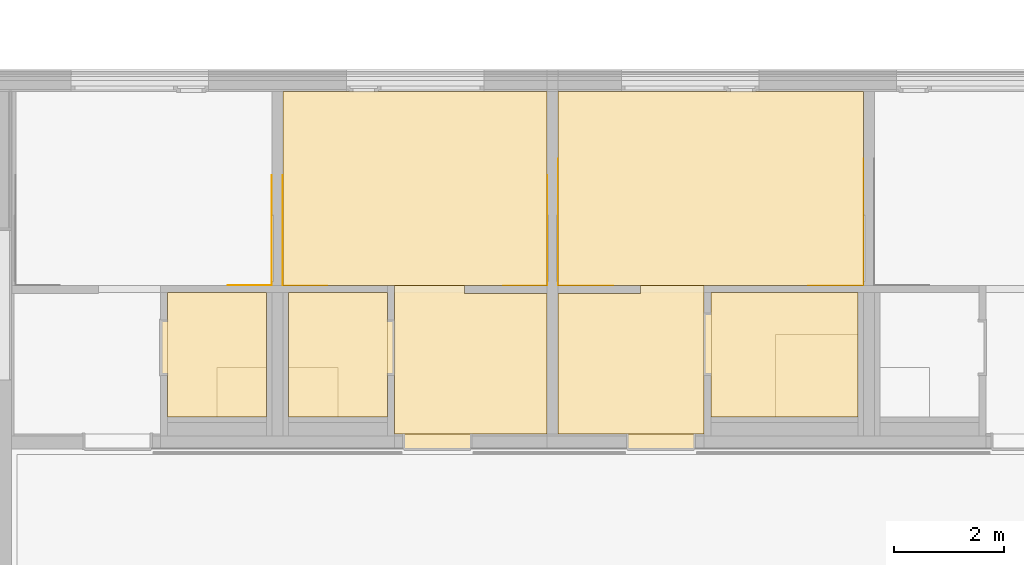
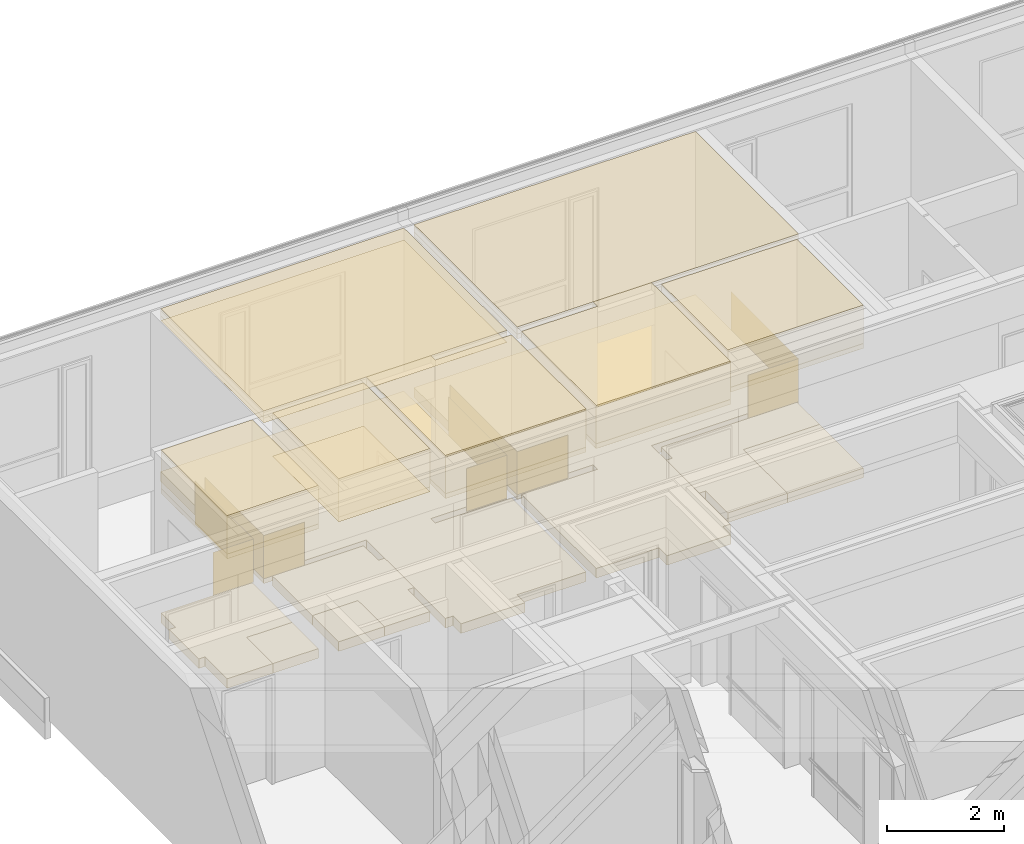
# One storey, part 173 of 207: 41 coverings.
"""IFC4 building model written with IfcOpenShell, lengths in metres."""

import ifcopenshell
import ifcopenshell.guid

model = None  # the IFC model being written
_history = None  # IfcOwnerHistory: only IFC2X3 demands one
_inside = {}  # id of a spatial element -> (the spatial element, [elements in it])
_under = {}  # id of a project, library or spatial element -> (it, [spatial elements below it])
_declared = {}  # id of a project -> (the project, [libraries it declares])
_typed = {}  # id of a type object -> (the type object, [elements of that type])
_made_of = {}  # id of a material, layer set ... -> (it, [elements and type objects made of it])


def new_model(schema):
    """Start an empty IFC model of exactly this schema.

    Asked for "IFC4X3", IfcOpenShell would pick the latest addendum, in which some entities
    have other attributes; the version numbers below select the first issue.
    IFC2X3 requires an IfcOwnerHistory on every rooted entity: one is made here for all.
    """
    global model, _history
    if schema == "IFC4X3":
        model = ifcopenshell.file(schema_version=(4, 3, 0, 0))
    else:
        model = ifcopenshell.file(schema=schema)
    _inside.clear()
    _under.clear()
    _declared.clear()
    _typed.clear()
    _made_of.clear()
    _history = None
    if model.schema == "IFC2X3":
        org = make("IfcOrganization", Name="unknown")
        user = make(
            "IfcPersonAndOrganization",
            ThePerson=make("IfcPerson", FamilyName="unknown"),
            TheOrganization=org,
        )
        app = make(
            "IfcApplication",
            ApplicationDeveloper=org,
            Version="unknown",
            ApplicationFullName="unknown",
            ApplicationIdentifier="unknown",
        )
        _history = make(
            "IfcOwnerHistory",
            OwningUser=user,
            OwningApplication=app,
            ChangeAction="ADDED",
            CreationDate=0,
        )
    return model


def make(cls, **values):
    """One entity of the class cls with the attributes given. An attribute that is None is left unset."""
    return model.create_entity(
        cls, **{name: value for name, value in values.items() if value is not None}
    )


def entity(cls, *values):
    """Any entity or typed value of the class cls, its attributes in the order of the schema. None: left unset."""
    e = model.create_entity(cls)
    for i, value in enumerate(values):
        if value is not None:
            e[i] = value
    return e


def rooted(cls, **values):
    """An entity with a GlobalId (a new one), such as an element, a storey or a relation."""
    return make(cls, GlobalId=ifcopenshell.guid.new(), OwnerHistory=_history, **values)


def si_unit(unit_type, name, prefix=None):
    """IfcSIUnit, for example si_unit("LENGTHUNIT", "METRE", prefix="MILLI")."""
    return make("IfcSIUnit", UnitType=unit_type, Prefix=prefix, Name=name)


def converted_unit(unit_type, name, factor, base, dimensions=None, offset=None):
    """IfcConversionBasedUnit, such as the inch: factor (a typed value) times the base unit."""
    return make(
        "IfcConversionBasedUnit"
        if offset is None
        else "IfcConversionBasedUnitWithOffset",
        ConversionOffset=offset,
        Dimensions=None
        if dimensions is None
        else entity("IfcDimensionalExponents", *dimensions),
        UnitType=unit_type,
        Name=name,
        ConversionFactor=make(
            "IfcMeasureWithUnit", ValueComponent=factor, UnitComponent=base
        ),
    )


def derived_unit(unit_type, elements):
    """IfcDerivedUnit: a product of units, each with its exponent."""
    return make(
        "IfcDerivedUnit",
        Elements=[
            make("IfcDerivedUnitElement", Unit=unit, Exponent=power)
            for unit, power in elements
        ],
        UnitType=unit_type,
    )


def assignment(units):
    """IfcUnitAssignment: the units of a project."""
    return None if units is None else make("IfcUnitAssignment", Units=units)


def point(xyz):
    """IfcCartesianPoint."""
    return None if xyz is None else make("IfcCartesianPoint", Coordinates=xyz)


def direction(xyz):
    """IfcDirection."""
    return None if xyz is None else make("IfcDirection", DirectionRatios=xyz)


def frame(location, z_axis=None, x_axis=None):
    """IfcAxis2Placement3D, a coordinate frame: its origin and axes. An axis left out is left unset."""
    return make(
        "IfcAxis2Placement3D",
        Location=point(location),
        Axis=direction(z_axis),
        RefDirection=direction(x_axis),
    )


def frame_2d(location, x_axis=None):
    """IfcAxis2Placement2D, a coordinate frame in the plane: its origin and x axis."""
    return make(
        "IfcAxis2Placement2D", Location=point(location), RefDirection=direction(x_axis)
    )


def origin():
    """The frame at (0, 0, 0) with its axes left unset."""
    return frame((0.0, 0.0, 0.0))


def origin_with_axes():
    """The frame at (0, 0, 0) with the z axis (0, 0, 1) and the x axis (1, 0, 0) written out."""
    return frame((0.0, 0.0, 0.0), z_axis=(0.0, 0.0, 1.0), x_axis=(1.0, 0.0, 0.0))


def place(relative_to, where):
    """IfcLocalPlacement: puts the frame where relative to a parent placement (None: the world)."""
    return make(
        "IfcLocalPlacement", PlacementRelTo=relative_to, RelativePlacement=where
    )


def context(
    kind, dimensions, precision=None, world=None, true_north=None, identifier=None
):
    """IfcGeometricRepresentationContext, for example the 3D "Model" context."""
    return make(
        "IfcGeometricRepresentationContext",
        ContextIdentifier=identifier,
        ContextType=kind,
        CoordinateSpaceDimension=dimensions,
        Precision=precision,
        WorldCoordinateSystem=world,
        TrueNorth=true_north,
    )


def subcontext(parent, identifier, kind, view, scale=None):
    """IfcGeometricRepresentationSubContext, for example "Body" below "Model"."""
    return make(
        "IfcGeometricRepresentationSubContext",
        ContextIdentifier=identifier,
        ContextType=kind,
        ParentContext=parent,
        TargetScale=scale,
        TargetView=view,
    )


def project(units=None, contexts=None):
    """IfcProject with its units and contexts."""
    return rooted(
        "IfcProject",
        Name="project",
        RepresentationContexts=contexts,
        UnitsInContext=assignment(units),
    )


def spatial(cls, under=None, at=None, **own):
    """A site, building, storey or space (cls), placed at a placement, below another one or the project."""
    s = rooted(cls, ObjectPlacement=at, **own)
    if under is not None:
        _under.setdefault(under.id(), (under, []))[1].append(s)
    return s


def polyline(points):
    """IfcPolyline through the points."""
    return make("IfcPolyline", Points=[point(p) for p in points])


def profile(cls, at=None, kind="AREA", **sizes):
    """A parametric profile (cls). Its sizes go by their IFC names, for example OverallWidth=200.0."""
    return make(cls, ProfileType=kind, Position=at, **sizes)


def rectangle(**sizes):
    """IfcRectangleProfileDef."""
    return profile("IfcRectangleProfileDef", **sizes)


def outline(outer, holes=None, kind="AREA"):
    """IfcArbitraryClosedProfileDef: a profile drawn as a closed curve; with holes, ...WithVoids."""
    if holes is None:
        return make("IfcArbitraryClosedProfileDef", ProfileType=kind, OuterCurve=outer)
    return make(
        "IfcArbitraryProfileDefWithVoids",
        ProfileType=kind,
        OuterCurve=outer,
        InnerCurves=holes,
    )


def extrude(swept, where, along, depth):
    """IfcExtrudedAreaSolid: the profile swept, set in the frame where, extruded along a direction by depth."""
    return make(
        "IfcExtrudedAreaSolid",
        SweptArea=swept,
        Position=where,
        ExtrudedDirection=direction(along),
        Depth=depth,
    )


def shape(context_of_items, identifier, shape_type, items):
    """IfcShapeRepresentation: the items that make up one representation, for example the "Body"."""
    return make(
        "IfcShapeRepresentation",
        ContextOfItems=context_of_items,
        RepresentationIdentifier=identifier,
        RepresentationType=shape_type,
        Items=items,
    )


def material(Name=None, Category=None):
    """IfcMaterial."""
    return make("IfcMaterial", Name=Name, Category=Category)


def layer(
    of_material, thickness, ventilated=None, Name=None, Category=None, Priority=None
):
    """IfcMaterialLayer: one layer of a wall or slab, of a material (None: an air gap)."""
    return make(
        "IfcMaterialLayer",
        Material=of_material,
        LayerThickness=thickness,
        IsVentilated=ventilated,
        Name=Name,
        Category=Category,
        Priority=Priority,
    )


def layer_set(layers, Name=None):
    """IfcMaterialLayerSet."""
    return make("IfcMaterialLayerSet", MaterialLayers=layers, LayerSetName=Name)


def layer_usage(for_layer_set, set_direction, sense, offset, extent=None):
    """IfcMaterialLayerSetUsage: how a layer set lies in its element."""
    return make(
        "IfcMaterialLayerSetUsage",
        ForLayerSet=for_layer_set,
        LayerSetDirection=set_direction,
        DirectionSense=sense,
        OffsetFromReferenceLine=offset,
        ReferenceExtent=extent,
    )


def made_of(thing, what):
    """Note that an element or type object is made of a material, layer set ...; save() writes the relation."""
    if what is not None:
        _made_of.setdefault(what.id(), (what, []))[1].append(thing)
    return thing


def element(
    cls,
    number,
    at=None,
    inside=None,
    cuts=None,
    type_object=None,
    material=None,
    context=None,
    identifier="Body",
    shape_type=None,
    held_by="IfcProductDefinitionShape",
    body=None,
    shapes=None,
    **own,
):
    """One element of the class cls, such as IfcWall. Its Tag is "e" and its number.

    at: its placement. inside: the storey or other place that contains it. cuts: it is an
    opening in that element (IfcRelVoidsElement). A single representation is given by context,
    identifier, shape_type and body (its items); several are given by shapes. held_by: the class
    of the entity that holds the representations. save() writes the other relations.
    """
    e = rooted(cls, Tag="e%d" % number, ObjectPlacement=at, **own)
    if body is not None:
        shapes = [shape(context, identifier, shape_type, body)]
    if shapes is not None:
        e.Representation = make(held_by, Representations=shapes)
    if inside is not None:
        _inside.setdefault(inside.id(), (inside, []))[1].append(e)
    if cuts is not None:
        rooted(
            "IfcRelVoidsElement", RelatingBuildingElement=cuts, RelatedOpeningElement=e
        )
    if type_object is not None:
        _typed.setdefault(type_object.id(), (type_object, []))[1].append(e)
    return made_of(e, material)


def aggregate(whole, parts):
    """IfcRelAggregates: a whole, such as a stair, and the parts it consists of."""
    return rooted("IfcRelAggregates", RelatingObject=whole, RelatedObjects=parts)


def save(model, path):
    """Write the relations noted so far, then the file.

    IfcRelAggregates (storeys below a building ...), IfcRelContainedInSpatialStructure (elements
    in a storey), IfcRelDefinesByType, IfcRelAssociatesMaterial and IfcRelDeclares: one each for
    every whole, place, type object, material and project.
    """
    for whole, parts in _under.values():
        aggregate(whole, parts)
    for where, things in _inside.values():
        rooted(
            "IfcRelContainedInSpatialStructure",
            RelatedElements=things,
            RelatingStructure=where,
        )
    for kind, things in _typed.values():
        rooted("IfcRelDefinesByType", RelatedObjects=things, RelatingType=kind)
    for what, things in _made_of.values():
        rooted("IfcRelAssociatesMaterial", RelatedObjects=things, RelatingMaterial=what)
    for by, libraries in _declared.values():
        rooted("IfcRelDeclares", RelatingContext=by, RelatedDefinitions=libraries)
    model.write(path)


model = new_model("IFC4")

# Units and contexts
model_context = context("Model", 3, precision=1e-05, world=origin())
body_context = subcontext(model_context, "Body", "Model", "MODEL_VIEW")
ifc_project = project(units=[si_unit("LENGTHUNIT", "METRE"), si_unit("AREAUNIT", "SQUARE_METRE"), si_unit("VOLUMEUNIT", "CUBIC_METRE"), si_unit("MASSUNIT", "GRAM", prefix="KILO"), converted_unit("PLANEANGLEUNIT", "DEGREE", entity("IfcPlaneAngleMeasure", 0.0174532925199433), si_unit("PLANEANGLEUNIT", "RADIAN"), dimensions=[0, 0, 0, 0, 0, 0, 0]), derived_unit("THERMALTRANSMITTANCEUNIT", [(si_unit("POWERUNIT", "WATT"), 1), (si_unit("THERMODYNAMICTEMPERATUREUNIT", "KELVIN"), -1), (si_unit("LENGTHUNIT", "METRE"), -2)]), derived_unit("VOLUMETRICFLOWRATEUNIT", [(si_unit("LENGTHUNIT", "METRE"), 3), (converted_unit("TIMEUNIT", "hour", entity("IfcTimeMeasure", 3600.0), si_unit("TIMEUNIT", "SECOND"), dimensions=[0, 0, 1, 0, 0, 0, 0]), -1), (si_unit("LENGTHUNIT", "METRE"), -1)])], contexts=[model_context])

# Site, building, storey, space
site_placement = place(None, origin())
site = spatial("IfcSite", under=ifc_project, at=site_placement, Name="Psychiatrie Neubau Wunstorf", CompositionType="ELEMENT")
building_placement = place(site_placement, origin())
building = spatial("IfcBuilding", under=site, at=building_placement, Name="Neubau H2 Stationsgebäude", CompositionType="ELEMENT")
storey_placement = place(building_placement, frame((0.0, 0.0, -0.2)))
storey = spatial("IfcBuildingStorey", under=building, at=storey_placement, Name="H2 Ebene 0", CompositionType="ELEMENT", Elevation=-0.2)
space_1_placement = place(storey_placement, frame((12.875, 24.6995, 0.0)))
space_1 = spatial("IfcSpace", under=storey, at=space_1_placement, Name="WUN-H2-E00-043a", CompositionType="ELEMENT")

# Coverings
ifc_material_1 = material(Name="Fl1")
ifc_layer_1 = layer(ifc_material_1, 0.2)
ifc_layer_set_1 = layer_set([ifc_layer_1])
ifc_layer_usage_1 = layer_usage(ifc_layer_set_1, "AXIS3", "POSITIVE", 0.0)
covering_1_placement = place(space_1_placement, frame((-0.125, 0.0, 0.0)))
element("IfcCovering", 1, at=covering_1_placement, inside=space_1, material=ifc_layer_usage_1, Name="Fliesen", PredefinedType="FLOORING", context=body_context, shape_type="SweptSolid", body=[
    extrude(rectangle(XDim=0.125, YDim=1.135, at=frame_2d((0.0625, 0.5675), x_axis=(1.0, 0.0))), frame((0.0, 0.755000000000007, 0.0), z_axis=(0.0, 0.0, 1.0), x_axis=(1.0, 0.0, 0.0)), (0.0, 0.0, 1.0), 0.2),
    extrude(outline(polyline([(1.17500000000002, 1.50000000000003), (2.675, 1.50000000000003), (2.675, 2.265), (0.0, 2.265), (0.0, 0.0), (1.17500000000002, 0.0), (1.17500000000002, 1.50000000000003)])), frame((0.125, 0.0, 0.0), z_axis=(0.0, 0.0, 1.0), x_axis=(1.0, 0.0, 0.0)), (0.0, 0.0, 1.0), 0.2),
])
ifc_material_2 = material(Name="Fl2")
ifc_layer_2 = layer(ifc_material_2, 0.2)
ifc_layer_set_2 = layer_set([ifc_layer_2])
ifc_layer_usage_2 = layer_usage(ifc_layer_set_2, "AXIS3", "POSITIVE", 0.0)
covering_2_placement = place(space_1_placement, frame((1.17500000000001, 0.0, 0.0)))
element("IfcCovering", 2, at=covering_2_placement, inside=space_1, material=ifc_layer_usage_2, Name="Fliesen Mosaik", PredefinedType="FLOORING", context=body_context, shape_type="SweptSolid", body=[
    extrude(rectangle(XDim=1.49999999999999, YDim=1.49999999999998, at=frame_2d((0.749999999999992, -0.749999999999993), x_axis=(0.0, -1.0))), frame((0.0, 1.49999999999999, 0.0), z_axis=(0.0, 0.0, 1.0), x_axis=(1.0, 0.0, 0.0)), (0.0, 0.0, 1.0), 0.2),
])
ifc_material_3 = material()
ifc_layer_3 = layer(ifc_material_3, 0.036)
ifc_layer_set_3 = layer_set([ifc_layer_3])
ifc_layer_usage_3 = layer_usage(ifc_layer_set_3, "AXIS3", "POSITIVE", 0.0)
covering_3_placement = place(space_1_placement, frame((0.0, 0.0, 3.6)))
element("IfcCovering", 3, at=covering_3_placement, inside=space_1, material=ifc_layer_usage_3, Name="Gipsfaserplatten 2-lagig (BSK)", PredefinedType="CEILING", context=body_context, shape_type="SweptSolid", body=[
    extrude(rectangle(XDim=2.265, YDim=2.675, at=frame_2d((-1.3375, 1.1325), x_axis=(0.0, 1.0))), frame((2.675, 2.265, 0.0), z_axis=(0.0, 0.0, -1.0), x_axis=(1.0, 0.0, 0.0)), (0.0, 0.0, 1.0), 0.036),
])
ifc_material_4 = material(Name="Installationshöhe")
ifc_layer_4 = layer(ifc_material_4, 0.764)
ifc_layer_set_4 = layer_set([ifc_layer_4])
ifc_layer_usage_4 = layer_usage(ifc_layer_set_4, "AXIS3", "POSITIVE", 0.0)
covering_4_placement = place(space_1_placement, frame((0.0, 0.0, 3.564)))
element("IfcCovering", 4, at=covering_4_placement, inside=space_1, material=ifc_layer_usage_4, Name="Gipsfaserplatten 2-lagig (BSK)", PredefinedType="CEILING", context=body_context, shape_type="SweptSolid", body=[
    extrude(rectangle(XDim=2.265, YDim=2.675, at=frame_2d((-1.3375, 1.1325), x_axis=(0.0, 1.0))), frame((2.675, 2.265, 0.0), z_axis=(0.0, 0.0, -1.0), x_axis=(1.0, 0.0, 0.0)), (0.0, 0.0, 1.0), 0.764),
])
ifc_material_5 = material(Name="B")
ifc_layer_5 = layer(ifc_material_5, 0.1)
ifc_layer_set_5 = layer_set([ifc_layer_5])
ifc_layer_usage_5 = layer_usage(ifc_layer_set_5, "AXIS3", "POSITIVE", 0.0)
covering_5_placement = place(space_1_placement, frame((0.0, 0.0, 2.8)))
element("IfcCovering", 5, at=covering_5_placement, inside=space_1, material=ifc_layer_usage_5, Name="Gipskarton, imprägniert", PredefinedType="CEILING", context=body_context, shape_type="SweptSolid", body=[
    extrude(rectangle(XDim=2.265, YDim=2.675, at=frame_2d((-1.3375, 1.1325), x_axis=(0.0, 1.0))), frame((2.675, 2.265, 0.0), z_axis=(0.0, 0.0, -1.0), x_axis=(1.0, 0.0, 0.0)), (0.0, 0.0, 1.0), 0.1),
])
ifc_material_6 = material(Name="D1")
ifc_layer_6 = layer(ifc_material_6, 0.001)
ifc_layer_set_6 = layer_set([ifc_layer_6])
ifc_layer_usage_6 = layer_usage(ifc_layer_set_6, "AXIS3", "POSITIVE", 0.0)
covering_6_placement = place(space_1_placement, frame((0.0, 0.0, 2.7)))
element("IfcCovering", 6, at=covering_6_placement, inside=space_1, material=ifc_layer_usage_6, Name="Gipsfaserplatten 2-lagig (BSK)", PredefinedType="CEILING", context=body_context, shape_type="SweptSolid", body=[
    extrude(rectangle(XDim=2.265, YDim=2.675, at=frame_2d((-1.3375, 1.1325), x_axis=(0.0, 1.0))), frame((2.675, 2.265, 0.0), z_axis=(0.0, 0.0, -1.0), x_axis=(1.0, 0.0, 0.0)), (0.0, 0.0, 1.0), 0.001),
])

# Space
space_2_placement = place(storey_placement, frame((5.2, 24.6995, 0.0)))
space_2 = spatial("IfcSpace", under=storey, at=space_2_placement, Name="WUN-H2-E00-042a", CompositionType="ELEMENT")

# Coverings
ifc_material_7 = material(Name="Fl1")
ifc_layer_7 = layer(ifc_material_7, 0.2)
ifc_layer_set_7 = layer_set([ifc_layer_7])
ifc_layer_usage_7 = layer_usage(ifc_layer_set_7, "AXIS3", "POSITIVE", 0.0)
covering_7_placement = place(space_2_placement, origin())
element("IfcCovering", 7, at=covering_7_placement, inside=space_2, material=ifc_layer_usage_7, Name="Fliesen", PredefinedType="FLOORING", context=body_context, shape_type="SweptSolid", body=[
    extrude(rectangle(XDim=0.125, YDim=1.01, at=frame_2d((-0.0625, -0.505), x_axis=(-1.0, 0.0))), frame((1.925, 1.76500000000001, 0.0), z_axis=(0.0, 0.0, 1.0), x_axis=(1.0, 0.0, 0.0)), (0.0, 0.0, 1.0), 0.2),
    extrude(outline(polyline([(0.900000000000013, 0.0), (1.8, 0.0), (1.8, 2.265), (0.0, 2.265), (0.0, 0.900000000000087), (0.900000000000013, 0.900000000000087), (0.900000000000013, 0.0)])), origin_with_axes(), (0.0, 0.0, 1.0), 0.2),
])
ifc_material_8 = material(Name="Fl2")
ifc_layer_8 = layer(ifc_material_8, 0.2)
ifc_layer_set_8 = layer_set([ifc_layer_8])
ifc_layer_usage_8 = layer_usage(ifc_layer_set_8, "AXIS3", "POSITIVE", 0.0)
covering_8_placement = place(space_2_placement, origin())
element("IfcCovering", 8, at=covering_8_placement, inside=space_2, material=ifc_layer_usage_8, Name="Fliesen Mosaik", PredefinedType="FLOORING", context=body_context, shape_type="SweptSolid", body=[
    extrude(rectangle(XDim=0.900000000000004, YDim=0.9, at=frame_2d((0.45, -0.450000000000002), x_axis=(0.0, -1.0))), frame((0.0, 0.9, 0.0), z_axis=(0.0, 0.0, 1.0), x_axis=(1.0, 0.0, 0.0)), (0.0, 0.0, 1.0), 0.2),
])
ifc_material_9 = material()
ifc_layer_9 = layer(ifc_material_9, 0.036)
ifc_layer_set_9 = layer_set([ifc_layer_9])
ifc_layer_usage_9 = layer_usage(ifc_layer_set_9, "AXIS3", "POSITIVE", 0.0)
covering_9_placement = place(space_2_placement, frame((0.0, 0.0, 3.6)))
element("IfcCovering", 9, at=covering_9_placement, inside=space_2, material=ifc_layer_usage_9, Name="Gipsfaserplatten 2-lagig (BSK)", PredefinedType="CEILING", context=body_context, shape_type="SweptSolid", body=[
    extrude(rectangle(XDim=1.8, YDim=2.265, at=frame_2d((0.9, 1.1325), x_axis=(1.0, 0.0))), frame((0.0, 2.265, 0.0), z_axis=(0.0, 0.0, -1.0), x_axis=(1.0, 0.0, 0.0)), (0.0, 0.0, 1.0), 0.036),
])
ifc_material_10 = material(Name="Installationshöhe")
ifc_layer_10 = layer(ifc_material_10, 0.764)
ifc_layer_set_10 = layer_set([ifc_layer_10])
ifc_layer_usage_10 = layer_usage(ifc_layer_set_10, "AXIS3", "POSITIVE", 0.0)
covering_10_placement = place(space_2_placement, frame((0.0, 0.0, 3.564)))
element("IfcCovering", 10, at=covering_10_placement, inside=space_2, material=ifc_layer_usage_10, Name="Gipsfaserplatten 2-lagig (BSK)", PredefinedType="CEILING", context=body_context, shape_type="SweptSolid", body=[
    extrude(rectangle(XDim=1.8, YDim=2.265, at=frame_2d((0.9, 1.1325), x_axis=(1.0, 0.0))), frame((0.0, 2.265, 0.0), z_axis=(0.0, 0.0, -1.0), x_axis=(1.0, 0.0, 0.0)), (0.0, 0.0, 1.0), 0.764),
])
ifc_material_11 = material(Name="B")
ifc_layer_11 = layer(ifc_material_11, 0.1)
ifc_layer_set_11 = layer_set([ifc_layer_11])
ifc_layer_usage_11 = layer_usage(ifc_layer_set_11, "AXIS3", "POSITIVE", 0.0)
covering_11_placement = place(space_2_placement, frame((0.0, 0.0, 2.8)))
element("IfcCovering", 11, at=covering_11_placement, inside=space_2, material=ifc_layer_usage_11, Name="Gipskarton, imprägniert", PredefinedType="CEILING", context=body_context, shape_type="SweptSolid", body=[
    extrude(rectangle(XDim=1.8, YDim=2.265, at=frame_2d((0.9, 1.1325), x_axis=(1.0, 0.0))), frame((0.0, 2.265, 0.0), z_axis=(0.0, 0.0, -1.0), x_axis=(1.0, 0.0, 0.0)), (0.0, 0.0, 1.0), 0.1),
])
ifc_material_12 = material(Name="D1")
ifc_layer_12 = layer(ifc_material_12, 0.001)
ifc_layer_set_12 = layer_set([ifc_layer_12])
ifc_layer_usage_12 = layer_usage(ifc_layer_set_12, "AXIS3", "POSITIVE", 0.0)
covering_12_placement = place(space_2_placement, frame((0.0, 0.0, 2.7)))
element("IfcCovering", 12, at=covering_12_placement, inside=space_2, material=ifc_layer_usage_12, Name="Gipsfaserplatten 2-lagig (BSK)", PredefinedType="CEILING", context=body_context, shape_type="SweptSolid", body=[
    extrude(rectangle(XDim=1.8, YDim=2.265, at=frame_2d((0.9, 1.1325), x_axis=(1.0, 0.0))), frame((0.0, 2.265, 0.0), z_axis=(0.0, 0.0, -1.0), x_axis=(1.0, 0.0, 0.0)), (0.0, 0.0, 1.0), 0.001),
])

# Space
space_3_placement = place(storey_placement, frame((3.0, 24.6995, 0.0)))
space_3 = spatial("IfcSpace", under=storey, at=space_3_placement, Name="WUN-H2-E00-041a", CompositionType="ELEMENT")

# Coverings
ifc_material_13 = material(Name="Fl1")
ifc_layer_13 = layer(ifc_material_13, 0.2)
ifc_layer_set_13 = layer_set([ifc_layer_13])
ifc_layer_usage_13 = layer_usage(ifc_layer_set_13, "AXIS3", "POSITIVE", 0.0)
covering_13_placement = place(space_3_placement, frame((-0.125, 0.0, 0.0)))
element("IfcCovering", 13, at=covering_13_placement, inside=space_3, material=ifc_layer_usage_13, Name="Fliesen", PredefinedType="FLOORING", context=body_context, shape_type="SweptSolid", body=[
    extrude(rectangle(XDim=0.125, YDim=1.01, at=frame_2d((0.0625, 0.505), x_axis=(1.0, 0.0))), frame((0.0, 0.755000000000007, 0.0), z_axis=(0.0, 0.0, 1.0), x_axis=(1.0, 0.0, 0.0)), (0.0, 0.0, 1.0), 0.2),
    extrude(outline(polyline([(0.899999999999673, 0.90000000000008), (1.8, 0.90000000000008), (1.8, 2.265), (0.0, 2.265), (0.0, 0.0), (0.899999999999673, 0.0), (0.899999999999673, 0.90000000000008)])), frame((0.125, 0.0, 0.0), z_axis=(0.0, 0.0, 1.0), x_axis=(1.0, 0.0, 0.0)), (0.0, 0.0, 1.0), 0.2),
])
ifc_material_14 = material(Name="Fl2")
ifc_layer_14 = layer(ifc_material_14, 0.2)
ifc_layer_set_14 = layer_set([ifc_layer_14])
ifc_layer_usage_14 = layer_usage(ifc_layer_set_14, "AXIS3", "POSITIVE", 0.0)
covering_14_placement = place(space_3_placement, frame((0.899999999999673, 0.0, 0.0)))
element("IfcCovering", 14, at=covering_14_placement, inside=space_3, material=ifc_layer_usage_14, Name="Fliesen Mosaik", PredefinedType="FLOORING", context=body_context, shape_type="SweptSolid", body=[
    extrude(rectangle(XDim=0.900000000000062, YDim=0.900000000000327, at=frame_2d((0.450000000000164, -0.450000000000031), x_axis=(0.0, -1.0))), frame((0.0, 0.900000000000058, 0.0), z_axis=(0.0, 0.0, 1.0), x_axis=(1.0, 0.0, 0.0)), (0.0, 0.0, 1.0), 0.2),
])
ifc_material_15 = material()
ifc_layer_15 = layer(ifc_material_15, 0.036)
ifc_layer_set_15 = layer_set([ifc_layer_15])
ifc_layer_usage_15 = layer_usage(ifc_layer_set_15, "AXIS3", "POSITIVE", 0.0)
covering_15_placement = place(space_3_placement, frame((0.0, 0.0, 3.6)))
element("IfcCovering", 15, at=covering_15_placement, inside=space_3, material=ifc_layer_usage_15, Name="Gipsfaserplatten 2-lagig (BSK)", PredefinedType="CEILING", context=body_context, shape_type="SweptSolid", body=[
    extrude(rectangle(XDim=1.8, YDim=2.265, at=frame_2d((-0.9, -1.1325), x_axis=(-1.0, 0.0))), frame((1.8, 0.0, 0.0), z_axis=(0.0, 0.0, -1.0), x_axis=(1.0, 0.0, 0.0)), (0.0, 0.0, 1.0), 0.036),
])
ifc_material_16 = material(Name="Installationshöhe")
ifc_layer_16 = layer(ifc_material_16, 0.764)
ifc_layer_set_16 = layer_set([ifc_layer_16])
ifc_layer_usage_16 = layer_usage(ifc_layer_set_16, "AXIS3", "POSITIVE", 0.0)
covering_16_placement = place(space_3_placement, frame((0.0, 0.0, 3.564)))
element("IfcCovering", 16, at=covering_16_placement, inside=space_3, material=ifc_layer_usage_16, Name="Gipsfaserplatten 2-lagig (BSK)", PredefinedType="CEILING", context=body_context, shape_type="SweptSolid", body=[
    extrude(rectangle(XDim=1.8, YDim=2.265, at=frame_2d((-0.9, -1.1325), x_axis=(-1.0, 0.0))), frame((1.8, 0.0, 0.0), z_axis=(0.0, 0.0, -1.0), x_axis=(1.0, 0.0, 0.0)), (0.0, 0.0, 1.0), 0.764),
])
ifc_material_17 = material(Name="B")
ifc_layer_17 = layer(ifc_material_17, 0.1)
ifc_layer_set_17 = layer_set([ifc_layer_17])
ifc_layer_usage_17 = layer_usage(ifc_layer_set_17, "AXIS3", "POSITIVE", 0.0)
covering_17_placement = place(space_3_placement, frame((0.0, 0.0, 2.8)))
element("IfcCovering", 17, at=covering_17_placement, inside=space_3, material=ifc_layer_usage_17, Name="Gipskarton, imprägniert", PredefinedType="CEILING", context=body_context, shape_type="SweptSolid", body=[
    extrude(rectangle(XDim=1.8, YDim=2.265, at=frame_2d((-0.9, -1.1325), x_axis=(-1.0, 0.0))), frame((1.8, 0.0, 0.0), z_axis=(0.0, 0.0, -1.0), x_axis=(1.0, 0.0, 0.0)), (0.0, 0.0, 1.0), 0.1),
])
ifc_material_18 = material(Name="D1")
ifc_layer_18 = layer(ifc_material_18, 0.001)
ifc_layer_set_18 = layer_set([ifc_layer_18])
ifc_layer_usage_18 = layer_usage(ifc_layer_set_18, "AXIS3", "POSITIVE", 0.0)
covering_18_placement = place(space_3_placement, frame((0.0, 0.0, 2.7)))
element("IfcCovering", 18, at=covering_18_placement, inside=space_3, material=ifc_layer_usage_18, Name="Gipsfaserplatten 2-lagig (BSK)", PredefinedType="CEILING", context=body_context, shape_type="SweptSolid", body=[
    extrude(rectangle(XDim=1.8, YDim=2.265, at=frame_2d((-0.9, -1.1325), x_axis=(-1.0, 0.0))), frame((1.8, 0.0, 0.0), z_axis=(0.0, 0.0, -1.0), x_axis=(1.0, 0.0, 0.0)), (0.0, 0.0, 1.0), 0.001),
])

# Space
space_4_placement = place(storey_placement, frame((5.1, 24.3895, 0.0)))
space_4 = spatial("IfcSpace", under=storey, at=space_4_placement, Name="WUN-H2-E00-042", CompositionType="ELEMENT")

# Coverings
ifc_material_19 = material(Name="84")
ifc_layer_19 = layer(ifc_material_19, 0.001)
ifc_layer_set_19 = layer_set([ifc_layer_19])
ifc_layer_usage_19 = layer_usage(ifc_layer_set_19, "AXIS3", "POSITIVE", 0.0)
covering_19_placement = place(space_4_placement, frame((4.0, 2.69999999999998, 0.1)))
element("IfcCovering", 19, at=covering_19_placement, inside=space_4, material=ifc_layer_usage_19, Name="Acrobyn", PredefinedType="CLADDING", context=body_context, shape_type="SweptSolid", body=[
    extrude(rectangle(XDim=0.8, YDim=0.9, at=frame_2d((0.4, -0.45), x_axis=(1.0, 0.0))), frame((0.0, 0.0, 0.0), z_axis=(0.0, 1.0, 0.0), x_axis=(1.0, 0.0, 0.0)), (0.0, 0.0, 1.0), 0.001),
    extrude(rectangle(XDim=2.0, YDim=0.9, at=frame_2d((1.0, -0.45), x_axis=(1.0, 0.0))), frame((0.8, 0.0, 0.0), z_axis=(-1.0, 0.0, 0.0), x_axis=(0.0, 1.0, 0.0)), (0.0, 0.0, 1.0), 0.001),
])
ifc_material_20 = material(Name="84")
ifc_layer_20 = layer(ifc_material_20, 0.001)
ifc_layer_set_20 = layer_set([ifc_layer_20])
ifc_layer_usage_20 = layer_usage(ifc_layer_set_20, "AXIS3", "POSITIVE", 0.0)
covering_20_placement = place(space_4_placement, frame((0.0, 2.69999999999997, 0.1)))
element("IfcCovering", 20, at=covering_20_placement, inside=space_4, material=ifc_layer_usage_20, Name="Acrobyn", PredefinedType="CLADDING", context=body_context, shape_type="SweptSolid", body=[
    extrude(rectangle(XDim=2.0, YDim=0.9, at=frame_2d((1.0, -0.45), x_axis=(1.0, 0.0))), frame((0.0, 2.0, 0.0), z_axis=(1.0, 0.0, 0.0), x_axis=(0.0, -1.0, 0.0)), (0.0, 0.0, 1.0), 0.001),
    extrude(rectangle(XDim=0.8, YDim=0.9, at=frame_2d((0.4, -0.45), x_axis=(1.0, 0.0))), frame((0.0, 0.0, 0.0), z_axis=(0.0, 1.0, 0.0), x_axis=(1.0, 0.0, 0.0)), (0.0, 0.0, 1.0), 0.001),
])
ifc_material_21 = material(Name="Ku1")
ifc_layer_21 = layer(ifc_material_21, 0.2)
ifc_layer_set_21 = layer_set([ifc_layer_21])
ifc_layer_usage_21 = layer_usage(ifc_layer_set_21, "AXIS3", "POSITIVE", 0.0)
covering_21_placement = place(space_4_placement, frame((0.0, -0.271999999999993, 0.0)))
element("IfcCovering", 21, at=covering_21_placement, inside=space_4, material=ifc_layer_usage_21, Name="PVC Bahnenware Holzoptik", PredefinedType="FLOORING", context=body_context, shape_type="SweptSolid", body=[
    extrude(rectangle(XDim=0.272, YDim=1.26, at=frame_2d((0.63, -0.135999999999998), x_axis=(0.0, -1.0))), frame((2.175, 0.271999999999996, 0.0), z_axis=(0.0, 0.0, 1.0), x_axis=(1.0, 0.0, 0.0)), (0.0, 0.0, 1.0), 0.2),
    extrude(outline(polyline([(4.8, 0.0), (4.79999999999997, 2.54999999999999), (3.29999999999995, 2.54999999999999), (3.29999999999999, 2.69999999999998), (4.8, 2.69999999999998), (4.8, 6.22450000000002), (0.0, 6.22450000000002), (0.0, 2.69999999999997), (2.02500000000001, 2.69999999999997), (2.025, 0.0), (4.8, 0.0)])), frame((0.0, 0.271999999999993, 0.0), z_axis=(0.0, 0.0, 1.0), x_axis=(1.0, 0.0, 0.0)), (0.0, 0.0, 1.0), 0.2),
])
ifc_material_22 = material()
ifc_layer_22 = layer(ifc_material_22, 0.036)
ifc_layer_set_22 = layer_set([ifc_layer_22])
ifc_layer_usage_22 = layer_usage(ifc_layer_set_22, "AXIS3", "POSITIVE", 0.0)
covering_22_placement = place(space_4_placement, frame((2.025, 0.0, 3.6)))
element("IfcCovering", 22, at=covering_22_placement, inside=space_4, material=ifc_layer_usage_22, Name="Gipsfaserplatten 2-lagig (BSK)", PredefinedType="CEILING", context=body_context, shape_type="SweptSolid", body=[
    extrude(outline(polyline([(0.0, 2.69999999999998), (0.0, 0.0), (1.27499999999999, 0.0), (1.27499999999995, 0.149999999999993), (2.77499999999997, 0.149999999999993), (2.775, 2.69999999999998), (0.0, 2.69999999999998)])), frame((0.0, 2.69999999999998, 0.0), z_axis=(0.0, 0.0, -1.0), x_axis=(1.0, 0.0, 0.0)), (0.0, 0.0, 1.0), 0.036),
])
ifc_material_23 = material(Name="Installationshöhe")
ifc_layer_23 = layer(ifc_material_23, 0.764)
ifc_layer_set_23 = layer_set([ifc_layer_23])
ifc_layer_usage_23 = layer_usage(ifc_layer_set_23, "AXIS3", "POSITIVE", 0.0)
covering_23_placement = place(space_4_placement, frame((2.025, 0.0, 3.564)))
element("IfcCovering", 23, at=covering_23_placement, inside=space_4, material=ifc_layer_usage_23, Name="Gipsfaserplatten 2-lagig (BSK)", PredefinedType="CEILING", context=body_context, shape_type="SweptSolid", body=[
    extrude(outline(polyline([(0.0, 2.69999999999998), (0.0, 0.0), (1.27499999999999, 0.0), (1.27499999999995, 0.149999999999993), (2.77499999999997, 0.149999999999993), (2.775, 2.69999999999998), (0.0, 2.69999999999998)])), frame((0.0, 2.69999999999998, 0.0), z_axis=(0.0, 0.0, -1.0), x_axis=(1.0, 0.0, 0.0)), (0.0, 0.0, 1.0), 0.764),
])
ifc_material_24 = material(Name="A1")
ifc_layer_24 = layer(ifc_material_24, 0.1)
ifc_layer_set_24 = layer_set([ifc_layer_24])
ifc_layer_usage_24 = layer_usage(ifc_layer_set_24, "AXIS3", "POSITIVE", 0.0)
covering_24_placement = place(space_4_placement, frame((2.025, 0.0, 2.8)))
element("IfcCovering", 24, at=covering_24_placement, inside=space_4, material=ifc_layer_usage_24, Name="Gipsfaserplatten 2-lagig (BSK)", PredefinedType="CEILING", context=body_context, shape_type="SweptSolid", body=[
    extrude(outline(polyline([(0.0, 2.69999999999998), (0.0, 0.0), (1.27499999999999, 0.0), (1.27499999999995, 0.149999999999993), (2.77499999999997, 0.149999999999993), (2.775, 2.69999999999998), (0.0, 2.69999999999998)])), frame((0.0, 2.69999999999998, 0.0), z_axis=(0.0, 0.0, -1.0), x_axis=(1.0, 0.0, 0.0)), (0.0, 0.0, 1.0), 0.1),
])
ifc_material_25 = material(Name="D1")
ifc_layer_25 = layer(ifc_material_25, 0.001)
ifc_layer_set_25 = layer_set([ifc_layer_25])
ifc_layer_usage_25 = layer_usage(ifc_layer_set_25, "AXIS3", "POSITIVE", 0.0)
covering_25_placement = place(space_4_placement, frame((2.025, 0.0, 2.7)))
element("IfcCovering", 25, at=covering_25_placement, inside=space_4, material=ifc_layer_usage_25, Name="Gipsfaserplatten 2-lagig (BSK)", PredefinedType="CEILING", context=body_context, shape_type="SweptSolid", body=[
    extrude(outline(polyline([(0.0, 2.69999999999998), (0.0, 0.0), (1.27499999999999, 0.0), (1.27499999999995, 0.149999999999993), (2.77499999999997, 0.149999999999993), (2.775, 2.69999999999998), (0.0, 2.69999999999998)])), frame((0.0, 2.69999999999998, 0.0), z_axis=(0.0, 0.0, -1.0), x_axis=(1.0, 0.0, 0.0)), (0.0, 0.0, 1.0), 0.001),
])
ifc_material_26 = material()
ifc_layer_26 = layer(ifc_material_26, 0.036)
ifc_layer_set_26 = layer_set([ifc_layer_26])
ifc_layer_usage_26 = layer_usage(ifc_layer_set_26, "AXIS3", "POSITIVE", 0.0)
covering_26_placement = place(space_4_placement, frame((0.0, 2.69999999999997, 3.6)))
element("IfcCovering", 26, at=covering_26_placement, inside=space_4, material=ifc_layer_usage_26, Name="Gipsfaserplatten 2-lagig (BSK)", PredefinedType="CEILING", context=body_context, shape_type="SweptSolid", body=[
    extrude(rectangle(XDim=3.52450000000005, YDim=4.8, at=frame_2d((2.4, -1.76225000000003), x_axis=(0.0, -1.0))), frame((0.0, 0.0, 0.0), z_axis=(0.0, 0.0, -1.0), x_axis=(1.0, 0.0, 0.0)), (0.0, 0.0, 1.0), 0.036),
])
ifc_material_27 = material(Name="Installationshöhe")
ifc_layer_27 = layer(ifc_material_27, 0.114)
ifc_layer_set_27 = layer_set([ifc_layer_27])
ifc_layer_usage_27 = layer_usage(ifc_layer_set_27, "AXIS3", "POSITIVE", 0.0)
covering_27_placement = place(space_4_placement, frame((0.0, 2.69999999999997, 3.564)))
element("IfcCovering", 27, at=covering_27_placement, inside=space_4, material=ifc_layer_usage_27, Name="Gipsfaserplatten 2-lagig (BSK)", PredefinedType="CEILING", context=body_context, shape_type="SweptSolid", body=[
    extrude(rectangle(XDim=3.52450000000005, YDim=4.8, at=frame_2d((2.4, -1.76225000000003), x_axis=(0.0, -1.0))), frame((0.0, 0.0, 0.0), z_axis=(0.0, 0.0, -1.0), x_axis=(1.0, 0.0, 0.0)), (0.0, 0.0, 1.0), 0.114),
])
ifc_material_28 = material(Name="A1")
ifc_layer_28 = layer(ifc_material_28, 0.1)
ifc_layer_set_28 = layer_set([ifc_layer_28])
ifc_layer_usage_28 = layer_usage(ifc_layer_set_28, "AXIS3", "POSITIVE", 0.0)
covering_28_placement = place(space_4_placement, frame((0.0, 2.69999999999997, 3.45)))
element("IfcCovering", 28, at=covering_28_placement, inside=space_4, material=ifc_layer_usage_28, Name="Gipsfaserplatten 2-lagig (BSK)", PredefinedType="CEILING", context=body_context, shape_type="SweptSolid", body=[
    extrude(rectangle(XDim=3.52450000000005, YDim=4.8, at=frame_2d((2.4, -1.76225000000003), x_axis=(0.0, -1.0))), frame((0.0, 0.0, 0.0), z_axis=(0.0, 0.0, -1.0), x_axis=(1.0, 0.0, 0.0)), (0.0, 0.0, 1.0), 0.1),
])
ifc_material_29 = material(Name="D1")
ifc_layer_29 = layer(ifc_material_29, 0.001)
ifc_layer_set_29 = layer_set([ifc_layer_29])
ifc_layer_usage_29 = layer_usage(ifc_layer_set_29, "AXIS3", "POSITIVE", 0.0)
covering_29_placement = place(space_4_placement, frame((0.0, 2.69999999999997, 3.35)))
element("IfcCovering", 29, at=covering_29_placement, inside=space_4, material=ifc_layer_usage_29, Name="Gipsfaserplatten 2-lagig (BSK)", PredefinedType="CEILING", context=body_context, shape_type="SweptSolid", body=[
    extrude(rectangle(XDim=3.52450000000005, YDim=4.8, at=frame_2d((2.4, -1.76225000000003), x_axis=(0.0, -1.0))), frame((0.0, 0.0, 0.0), z_axis=(0.0, 0.0, -1.0), x_axis=(1.0, 0.0, 0.0)), (0.0, 0.0, 1.0), 0.001),
])

# Space
space_5_placement = place(storey_placement, frame((10.1, 24.3895, 0.0)))
space_5 = spatial("IfcSpace", under=storey, at=space_5_placement, Name="WUN-H2-E00-043", CompositionType="ELEMENT")

# Coverings
ifc_material_30 = material(Name="84")
ifc_layer_30 = layer(ifc_material_30, 0.001)
ifc_layer_set_30 = layer_set([ifc_layer_30])
ifc_layer_usage_30 = layer_usage(ifc_layer_set_30, "AXIS3", "POSITIVE", 0.0)
covering_30_placement = place(space_5_placement, frame((4.55000000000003, 2.69999999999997, 0.1)))
element("IfcCovering", 30, at=covering_30_placement, inside=space_5, material=ifc_layer_usage_30, Name="Acrobyn", PredefinedType="CLADDING", context=body_context, shape_type="SweptSolid", body=[
    extrude(rectangle(XDim=0.9, YDim=2.3, at=frame_2d((-1.15, -0.45), x_axis=(0.0, -1.0))), frame((1.0, 2.3, 0.0), z_axis=(-1.0, 0.0, 0.0), x_axis=(0.0, 1.0, 0.0)), (0.0, 0.0, 1.0), 0.001),
    extrude(rectangle(XDim=0.9, YDim=1.0, at=frame_2d((-0.5, -0.45), x_axis=(0.0, -1.0))), frame((1.0, 0.0, 0.0), z_axis=(0.0, 1.0, 0.0), x_axis=(1.0, 0.0, 0.0)), (0.0, 0.0, 1.0), 0.001),
])
ifc_material_31 = material(Name="84")
ifc_layer_31 = layer(ifc_material_31, 0.001)
ifc_layer_set_31 = layer_set([ifc_layer_31])
ifc_layer_usage_31 = layer_usage(ifc_layer_set_31, "AXIS3", "POSITIVE", 0.0)
covering_31_placement = place(space_5_placement, frame((0.0, 2.69999999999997, 0.1)))
element("IfcCovering", 31, at=covering_31_placement, inside=space_5, material=ifc_layer_usage_31, Name="Acrobyn", PredefinedType="CLADDING", context=body_context, shape_type="SweptSolid", body=[
    extrude(rectangle(XDim=2.3, YDim=0.9, at=frame_2d((1.15, -0.45), x_axis=(1.0, 0.0))), frame((0.0, 2.3, 0.0), z_axis=(1.0, 0.0, 0.0), x_axis=(0.0, -1.0, 0.0)), (0.0, 0.0, 1.0), 0.001),
    extrude(rectangle(XDim=1.00000000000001, YDim=0.9, at=frame_2d((0.500000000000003, -0.45), x_axis=(1.0, 0.0))), frame((0.0, 0.0, 0.0), z_axis=(0.0, 1.0, 0.0), x_axis=(1.0, 0.0, 0.0)), (0.0, 0.0, 1.0), 0.001),
])
ifc_material_32 = material(Name="Ku1")
ifc_layer_32 = layer(ifc_material_32, 0.2)
ifc_layer_set_32 = layer_set([ifc_layer_32])
ifc_layer_usage_32 = layer_usage(ifc_layer_set_32, "AXIS3", "POSITIVE", 0.0)
covering_32_placement = place(space_5_placement, frame((0.0, -0.271999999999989, 0.0)))
element("IfcCovering", 32, at=covering_32_placement, inside=space_5, material=ifc_layer_usage_32, Name="PVC Bahnenware Holzoptik", PredefinedType="FLOORING", context=body_context, shape_type="SweptSolid", body=[
    extrude(rectangle(XDim=0.272, YDim=1.26, at=frame_2d((0.63, -0.135999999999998), x_axis=(0.0, -1.0))), frame((1.24000000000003, 0.272, 0.0), z_axis=(0.0, 0.0, 1.0), x_axis=(1.0, 0.0, 0.0)), (0.0, 0.0, 1.0), 0.2),
    extrude(outline(polyline([(0.0, 2.54999999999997), (0.0, 0.0), (2.65000000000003, 0.0), (2.65000000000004, 2.69999999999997), (5.55000000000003, 2.69999999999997), (5.55000000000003, 6.22450000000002), (0.0, 6.22450000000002), (0.0, 2.69999999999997), (1.50000000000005, 2.69999999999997), (1.50000000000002, 2.54999999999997), (0.0, 2.54999999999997)])), frame((0.0, 0.271999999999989, 0.0), z_axis=(0.0, 0.0, 1.0), x_axis=(1.0, 0.0, 0.0)), (0.0, 0.0, 1.0), 0.2),
])
ifc_material_33 = material()
ifc_layer_33 = layer(ifc_material_33, 0.036)
ifc_layer_set_33 = layer_set([ifc_layer_33])
ifc_layer_usage_33 = layer_usage(ifc_layer_set_33, "AXIS3", "POSITIVE", 0.0)
covering_33_placement = place(space_5_placement, frame((0.0, 0.0, 3.6)))
element("IfcCovering", 33, at=covering_33_placement, inside=space_5, material=ifc_layer_usage_33, Name="Gipsfaserplatten 2-lagig (BSK)", PredefinedType="CEILING", context=body_context, shape_type="SweptSolid", body=[
    extrude(outline(polyline([(0.0, 0.149999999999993), (1.50000000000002, 0.149999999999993), (1.50000000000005, 0.0), (2.65000000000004, 0.0), (2.65000000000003, 2.69999999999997), (0.0, 2.69999999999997), (0.0, 0.149999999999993)])), frame((0.0, 2.69999999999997, 0.0), z_axis=(0.0, 0.0, -1.0), x_axis=(1.0, 0.0, 0.0)), (0.0, 0.0, 1.0), 0.036),
])
ifc_material_34 = material(Name="Installationshöhe")
ifc_layer_34 = layer(ifc_material_34, 0.764)
ifc_layer_set_34 = layer_set([ifc_layer_34])
ifc_layer_usage_34 = layer_usage(ifc_layer_set_34, "AXIS3", "POSITIVE", 0.0)
covering_34_placement = place(space_5_placement, frame((0.0, 0.0, 3.564)))
element("IfcCovering", 34, at=covering_34_placement, inside=space_5, material=ifc_layer_usage_34, Name="Gipsfaserplatten 2-lagig (BSK)", PredefinedType="CEILING", context=body_context, shape_type="SweptSolid", body=[
    extrude(outline(polyline([(0.0, 0.149999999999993), (1.50000000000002, 0.149999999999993), (1.50000000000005, 0.0), (2.65000000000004, 0.0), (2.65000000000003, 2.69999999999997), (0.0, 2.69999999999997), (0.0, 0.149999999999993)])), frame((0.0, 2.69999999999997, 0.0), z_axis=(0.0, 0.0, -1.0), x_axis=(1.0, 0.0, 0.0)), (0.0, 0.0, 1.0), 0.764),
])
ifc_material_35 = material(Name="A1")
ifc_layer_35 = layer(ifc_material_35, 0.1)
ifc_layer_set_35 = layer_set([ifc_layer_35])
ifc_layer_usage_35 = layer_usage(ifc_layer_set_35, "AXIS3", "POSITIVE", 0.0)
covering_35_placement = place(space_5_placement, frame((0.0, 0.0, 2.8)))
element("IfcCovering", 35, at=covering_35_placement, inside=space_5, material=ifc_layer_usage_35, Name="Gipsfaserplatten 2-lagig (BSK)", PredefinedType="CEILING", context=body_context, shape_type="SweptSolid", body=[
    extrude(outline(polyline([(0.0, 0.149999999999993), (1.50000000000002, 0.149999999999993), (1.50000000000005, 0.0), (2.65000000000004, 0.0), (2.65000000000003, 2.69999999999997), (0.0, 2.69999999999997), (0.0, 0.149999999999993)])), frame((0.0, 2.69999999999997, 0.0), z_axis=(0.0, 0.0, -1.0), x_axis=(1.0, 0.0, 0.0)), (0.0, 0.0, 1.0), 0.1),
])
ifc_material_36 = material(Name="D1")
ifc_layer_36 = layer(ifc_material_36, 0.001)
ifc_layer_set_36 = layer_set([ifc_layer_36])
ifc_layer_usage_36 = layer_usage(ifc_layer_set_36, "AXIS3", "POSITIVE", 0.0)
covering_36_placement = place(space_5_placement, frame((0.0, 0.0, 2.7)))
element("IfcCovering", 36, at=covering_36_placement, inside=space_5, material=ifc_layer_usage_36, Name="Gipsfaserplatten 2-lagig (BSK)", PredefinedType="CEILING", context=body_context, shape_type="SweptSolid", body=[
    extrude(outline(polyline([(0.0, 0.149999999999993), (1.50000000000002, 0.149999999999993), (1.50000000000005, 0.0), (2.65000000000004, 0.0), (2.65000000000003, 2.69999999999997), (0.0, 2.69999999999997), (0.0, 0.149999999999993)])), frame((0.0, 2.69999999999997, 0.0), z_axis=(0.0, 0.0, -1.0), x_axis=(1.0, 0.0, 0.0)), (0.0, 0.0, 1.0), 0.001),
])
ifc_material_37 = material()
ifc_layer_37 = layer(ifc_material_37, 0.036)
ifc_layer_set_37 = layer_set([ifc_layer_37])
ifc_layer_usage_37 = layer_usage(ifc_layer_set_37, "AXIS3", "POSITIVE", 0.0)
covering_37_placement = place(space_5_placement, frame((0.0, 2.69999999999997, 3.6)))
element("IfcCovering", 37, at=covering_37_placement, inside=space_5, material=ifc_layer_usage_37, Name="Gipsfaserplatten 2-lagig (BSK)", PredefinedType="CEILING", context=body_context, shape_type="SweptSolid", body=[
    extrude(rectangle(XDim=3.52450000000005, YDim=5.55, at=frame_2d((2.775, -1.76225000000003), x_axis=(0.0, -1.0))), frame((0.0, 0.0, 0.0), z_axis=(0.0, 0.0, -1.0), x_axis=(1.0, 0.0, 0.0)), (0.0, 0.0, 1.0), 0.036),
])
ifc_material_38 = material(Name="Installationshöhe")
ifc_layer_38 = layer(ifc_material_38, 0.114)
ifc_layer_set_38 = layer_set([ifc_layer_38])
ifc_layer_usage_38 = layer_usage(ifc_layer_set_38, "AXIS3", "POSITIVE", 0.0)
covering_38_placement = place(space_5_placement, frame((0.0, 2.69999999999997, 3.564)))
element("IfcCovering", 38, at=covering_38_placement, inside=space_5, material=ifc_layer_usage_38, Name="Gipsfaserplatten 2-lagig (BSK)", PredefinedType="CEILING", context=body_context, shape_type="SweptSolid", body=[
    extrude(rectangle(XDim=3.52450000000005, YDim=5.55, at=frame_2d((2.775, -1.76225000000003), x_axis=(0.0, -1.0))), frame((0.0, 0.0, 0.0), z_axis=(0.0, 0.0, -1.0), x_axis=(1.0, 0.0, 0.0)), (0.0, 0.0, 1.0), 0.114),
])
ifc_material_39 = material(Name="A1")
ifc_layer_39 = layer(ifc_material_39, 0.1)
ifc_layer_set_39 = layer_set([ifc_layer_39])
ifc_layer_usage_39 = layer_usage(ifc_layer_set_39, "AXIS3", "POSITIVE", 0.0)
covering_39_placement = place(space_5_placement, frame((0.0, 2.69999999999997, 3.45)))
element("IfcCovering", 39, at=covering_39_placement, inside=space_5, material=ifc_layer_usage_39, Name="Gipsfaserplatten 2-lagig (BSK)", PredefinedType="CEILING", context=body_context, shape_type="SweptSolid", body=[
    extrude(rectangle(XDim=3.52450000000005, YDim=5.55, at=frame_2d((2.775, -1.76225000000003), x_axis=(0.0, -1.0))), frame((0.0, 0.0, 0.0), z_axis=(0.0, 0.0, -1.0), x_axis=(1.0, 0.0, 0.0)), (0.0, 0.0, 1.0), 0.1),
])
ifc_material_40 = material(Name="D1")
ifc_layer_40 = layer(ifc_material_40, 0.001)
ifc_layer_set_40 = layer_set([ifc_layer_40])
ifc_layer_usage_40 = layer_usage(ifc_layer_set_40, "AXIS3", "POSITIVE", 0.0)
covering_40_placement = place(space_5_placement, frame((0.0, 2.69999999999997, 3.35)))
element("IfcCovering", 40, at=covering_40_placement, inside=space_5, material=ifc_layer_usage_40, Name="Gipsfaserplatten 2-lagig (BSK)", PredefinedType="CEILING", context=body_context, shape_type="SweptSolid", body=[
    extrude(rectangle(XDim=3.52450000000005, YDim=5.55, at=frame_2d((2.775, -1.76225000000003), x_axis=(0.0, -1.0))), frame((0.0, 0.0, 0.0), z_axis=(0.0, 0.0, -1.0), x_axis=(1.0, 0.0, 0.0)), (0.0, 0.0, 1.0), 0.001),
])

# Space
space_6_placement = place(storey_placement, frame((0.208999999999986, 24.3895, 0.0)))
space_6 = spatial("IfcSpace", under=storey, at=space_6_placement, Name="WUN-H2-E00-041", CompositionType="ELEMENT")

# Covering
ifc_material_41 = material(Name="84")
ifc_layer_41 = layer(ifc_material_41, 0.001)
ifc_layer_set_41 = layer_set([ifc_layer_41])
ifc_layer_usage_41 = layer_usage(ifc_layer_set_41, "AXIS3", "POSITIVE", 0.0)
covering_41_placement = place(space_6_placement, frame((3.89100000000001, 2.69999999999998, 0.1)))
element("IfcCovering", 41, at=covering_41_placement, inside=space_6, material=ifc_layer_usage_41, Name="Acrobyn", PredefinedType="CLADDING", context=body_context, shape_type="SweptSolid", body=[
    extrude(rectangle(XDim=0.8, YDim=0.9, at=frame_2d((0.4, -0.45), x_axis=(1.0, 0.0))), frame((0.0, 0.0, 0.0), z_axis=(0.0, 1.0, 0.0), x_axis=(1.0, 0.0, 0.0)), (0.0, 0.0, 1.0), 0.001),
    extrude(rectangle(XDim=2.0, YDim=0.9, at=frame_2d((1.0, -0.45), x_axis=(1.0, 0.0))), frame((0.8, 0.0, 0.0), z_axis=(-1.0, 0.0, 0.0), x_axis=(0.0, 1.0, 0.0)), (0.0, 0.0, 1.0), 0.001),
])

save(model, "model.ifc")
